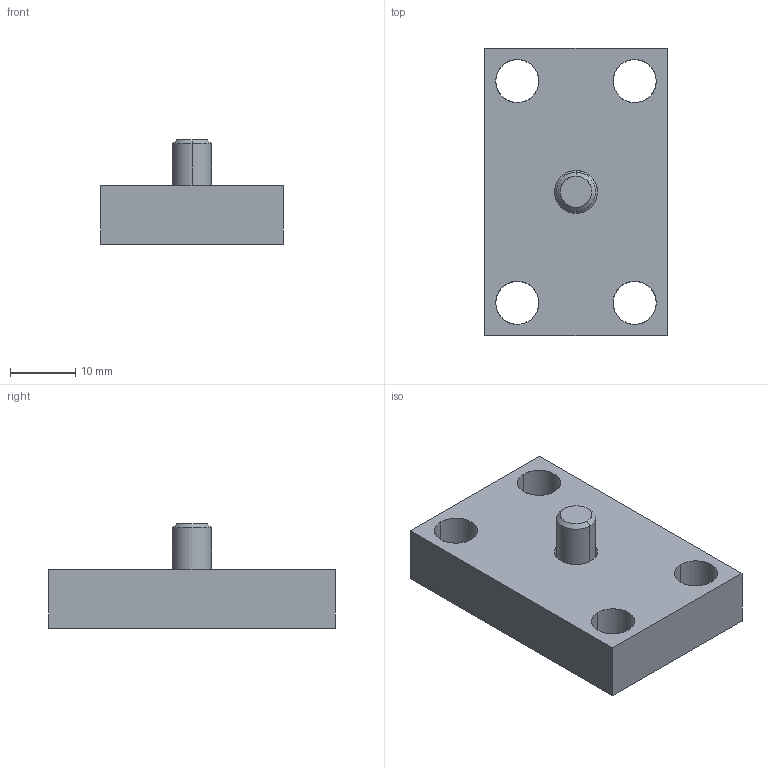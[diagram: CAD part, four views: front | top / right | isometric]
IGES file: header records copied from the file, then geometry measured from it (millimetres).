
Global section: file name: E:\UnigraphicsGraphicData\MISUMI_PRESS-PARTS\IGES\3d_hm-25_04128_r00.igs; native system: NX V5.0; preprocessor: UGS NX IGES V5.0; author: MISUMI; date: 20110105.161015; units: millimetre
Bounding box: 28 x 44 x 16 mm (x, y, z)
Surface area: 4867.5 mm2 (no closed solid volume)
Topology: 0 solids, 0 shells, 33 faces, 228 edges, 228 vertices
Faces by surface type: bspline 33
